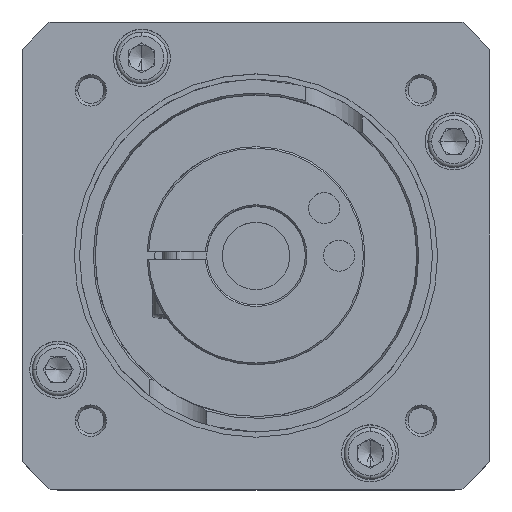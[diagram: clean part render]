
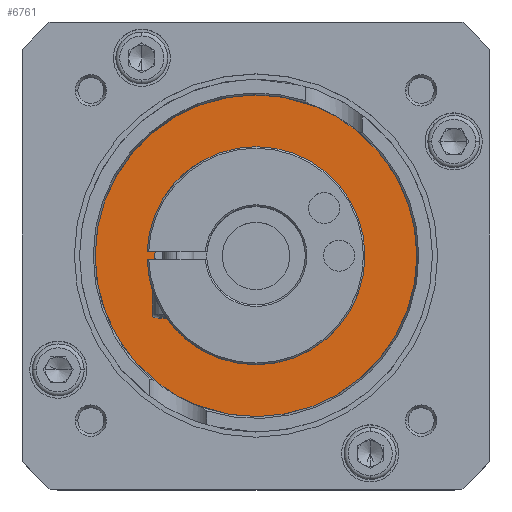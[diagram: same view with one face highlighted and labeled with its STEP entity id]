
A CAD part, top view. The second image highlights one B-rep face of the part: STEP entity #6761.
In plain terms, the highlighted planar face has unit normal (0, 0, 1).
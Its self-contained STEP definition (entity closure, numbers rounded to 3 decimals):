
#40 = CARTESIAN_POINT ( 'NONE',  ( -8.112, -9.237, 88.75 ) ) ;
#394 = EDGE_LOOP ( 'NONE', ( #5153, #1309 ) ) ;
#449 = CARTESIAN_POINT ( 'NONE',  ( 9.388, -9.237, 88.75 ) ) ;
#692 = VERTEX_POINT ( 'NONE', #2655 ) ;
#890 = ORIENTED_EDGE ( 'NONE', *, *, #7147, .T. ) ;
#1011 = EDGE_CURVE ( 'NONE', #4241, #692, #9444, .T. ) ;
#1309 = ORIENTED_EDGE ( 'NONE', *, *, #3542, .F. ) ;
#2336 = DIRECTION ( 'NONE',  ( 0., 0., 1. ) ) ;
#2494 = CIRCLE ( 'NONE', #5197, 31. ) ;
#2655 = CARTESIAN_POINT ( 'NONE',  ( 26.888, -9.237, 88.75 ) ) ;
#2763 = DIRECTION ( 'NONE',  ( 1., 0., 0. ) ) ;
#2782 = DIRECTION ( 'NONE',  ( 1., 0., 0. ) ) ;
#3542 = EDGE_CURVE ( 'NONE', #692, #4241, #9944, .T. ) ;
#4241 = VERTEX_POINT ( 'NONE', #40 ) ;
#4563 = DIRECTION ( 'NONE',  ( 1., 0., 0. ) ) ;
#4754 = CARTESIAN_POINT ( 'NONE',  ( 9.388, -9.237, 88.75 ) ) ;
#4815 = DIRECTION ( 'NONE',  ( 1., 0., 0. ) ) ;
#5153 = ORIENTED_EDGE ( 'NONE', *, *, #1011, .F. ) ;
#5197 = AXIS2_PLACEMENT_3D ( 'NONE', #8942, #5799, #12225 ) ;
#5531 = DIRECTION ( 'NONE',  ( 0., 0., 1. ) ) ;
#5799 = DIRECTION ( 'NONE',  ( 0., 0., 1. ) ) ;
#5804 = CARTESIAN_POINT ( 'NONE',  ( 40.388, -9.237, 88.75 ) ) ;
#6098 = AXIS2_PLACEMENT_3D ( 'NONE', #7623, #5531, #4563 ) ;
#6306 = AXIS2_PLACEMENT_3D ( 'NONE', #9165, #11209, #2782 ) ;
#6761 = ADVANCED_FACE ( 'NONE', ( #13517, #13235 ), #7644, .T. ) ;
#6851 = CARTESIAN_POINT ( 'NONE',  ( -21.612, -9.237, 88.75 ) ) ;
#7127 = EDGE_CURVE ( 'NONE', #9966, #13432, #2494, .T. ) ;
#7147 = EDGE_CURVE ( 'NONE', #13432, #9966, #10115, .T. ) ;
#7623 = CARTESIAN_POINT ( 'NONE',  ( 9.388, -9.237, 88.75 ) ) ;
#7644 = PLANE ( 'NONE',  #6306 ) ;
#8942 = CARTESIAN_POINT ( 'NONE',  ( 9.388, -9.237, 88.75 ) ) ;
#9006 = DIRECTION ( 'NONE',  ( 0., 0., 1. ) ) ;
#9165 = CARTESIAN_POINT ( 'NONE',  ( 9.388, -9.237, 88.75 ) ) ;
#9438 = AXIS2_PLACEMENT_3D ( 'NONE', #4754, #9006, #2763 ) ;
#9444 = CIRCLE ( 'NONE', #6098, 17.5 ) ;
#9944 = CIRCLE ( 'NONE', #12615, 17.5 ) ;
#9966 = VERTEX_POINT ( 'NONE', #5804 ) ;
#10067 = EDGE_LOOP ( 'NONE', ( #890, #10775 ) ) ;
#10115 = CIRCLE ( 'NONE', #9438, 31. ) ;
#10775 = ORIENTED_EDGE ( 'NONE', *, *, #7127, .T. ) ;
#11209 = DIRECTION ( 'NONE',  ( 0., 0., 1. ) ) ;
#12225 = DIRECTION ( 'NONE',  ( 1., 0., 0. ) ) ;
#12615 = AXIS2_PLACEMENT_3D ( 'NONE', #449, #2336, #4815 ) ;
#13235 = FACE_BOUND ( 'NONE', #394, .T. ) ;
#13432 = VERTEX_POINT ( 'NONE', #6851 ) ;
#13517 = FACE_OUTER_BOUND ( 'NONE', #10067, .T. ) ;
